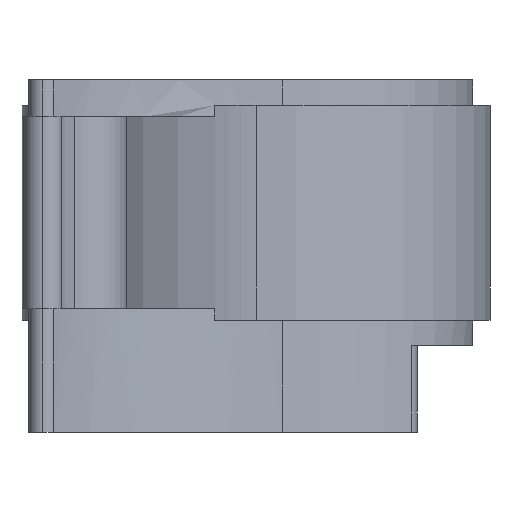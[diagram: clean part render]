
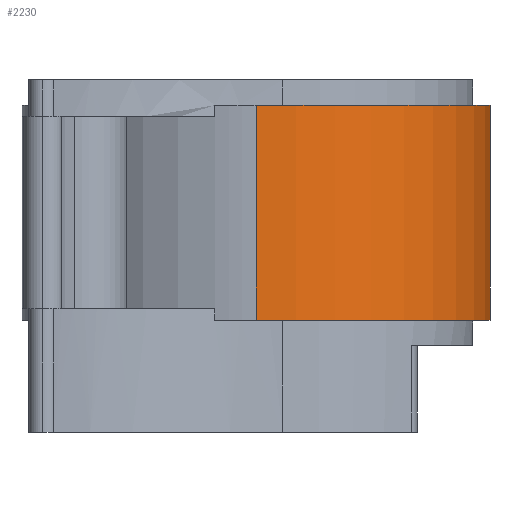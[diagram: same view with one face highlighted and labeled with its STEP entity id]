
A CAD part, left-side view. The second image highlights one B-rep face of the part: STEP entity #2230.
In plain terms, the highlighted cylindrical face has radius 67.5 mm (diameter 135 mm), a partial arc.
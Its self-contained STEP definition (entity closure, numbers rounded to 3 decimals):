
#1 = CARTESIAN_POINT ( 'NONE',  ( 67.5, -25.5, 31. ) ) ;
#15 = DIRECTION ( 'NONE',  ( 1., 0., 0. ) ) ;
#237 = CARTESIAN_POINT ( 'NONE',  ( 0., -25.5, -31. ) ) ;
#260 = DIRECTION ( 'NONE',  ( 0., 0., 1. ) ) ;
#262 = VERTEX_POINT ( 'NONE', #237 ) ;
#680 = ORIENTED_EDGE ( 'NONE', *, *, #892, .F. ) ;
#685 = VERTEX_POINT ( 'NONE', #1450 ) ;
#789 = EDGE_CURVE ( 'NONE', #685, #262, #1502, .T. ) ;
#813 = DIRECTION ( 'NONE',  ( 0., 0., 1. ) ) ;
#892 = EDGE_CURVE ( 'NONE', #685, #1857, #3343, .T. ) ;
#908 = DIRECTION ( 'NONE',  ( 0., 0., -1. ) ) ;
#949 = FACE_OUTER_BOUND ( 'NONE', #1382, .T. ) ;
#1200 = DIRECTION ( 'NONE',  ( 0., 0., -1. ) ) ;
#1382 = EDGE_LOOP ( 'NONE', ( #680, #1545, #1387, #2702 ) ) ;
#1387 = ORIENTED_EDGE ( 'NONE', *, *, #1488, .T. ) ;
#1450 = CARTESIAN_POINT ( 'NONE',  ( 0., -25.5, 31. ) ) ;
#1488 = EDGE_CURVE ( 'NONE', #262, #2963, #3377, .T. ) ;
#1494 = DIRECTION ( 'NONE',  ( -1., 0., 0. ) ) ;
#1502 = LINE ( 'NONE', #2074, #1754 ) ;
#1545 = ORIENTED_EDGE ( 'NONE', *, *, #789, .T. ) ;
#1754 = VECTOR ( 'NONE', #3093, 1000. ) ;
#1857 = VERTEX_POINT ( 'NONE', #1914 ) ;
#1914 = CARTESIAN_POINT ( 'NONE',  ( 108.394, -79.202, 31. ) ) ;
#1954 = VECTOR ( 'NONE', #908, 1000. ) ;
#2011 = CARTESIAN_POINT ( 'NONE',  ( 67.5, -25.5, 38.3 ) ) ;
#2074 = CARTESIAN_POINT ( 'NONE',  ( 0., -25.5, 38.3 ) ) ;
#2085 = AXIS2_PLACEMENT_3D ( 'NONE', #2011, #1200, #1494 ) ;
#2130 = CARTESIAN_POINT ( 'NONE',  ( 67.5, -25.5, -31. ) ) ;
#2230 = ADVANCED_FACE ( 'NONE', ( #949 ), #2590, .T. ) ;
#2286 = AXIS2_PLACEMENT_3D ( 'NONE', #2130, #260, #15 ) ;
#2406 = DIRECTION ( 'NONE',  ( 1., 0., 0. ) ) ;
#2519 = CARTESIAN_POINT ( 'NONE',  ( 108.394, -79.202, 38.3 ) ) ;
#2590 = CYLINDRICAL_SURFACE ( 'NONE', #2085, 67.5 ) ;
#2702 = ORIENTED_EDGE ( 'NONE', *, *, #3148, .F. ) ;
#2836 = LINE ( 'NONE', #2519, #1954 ) ;
#2963 = VERTEX_POINT ( 'NONE', #3333 ) ;
#3068 = AXIS2_PLACEMENT_3D ( 'NONE', #1, #813, #2406 ) ;
#3093 = DIRECTION ( 'NONE',  ( 0., 0., -1. ) ) ;
#3148 = EDGE_CURVE ( 'NONE', #1857, #2963, #2836, .T. ) ;
#3333 = CARTESIAN_POINT ( 'NONE',  ( 108.394, -79.202, -31. ) ) ;
#3343 = CIRCLE ( 'NONE', #3068, 67.5 ) ;
#3377 = CIRCLE ( 'NONE', #2286, 67.5 ) ;
